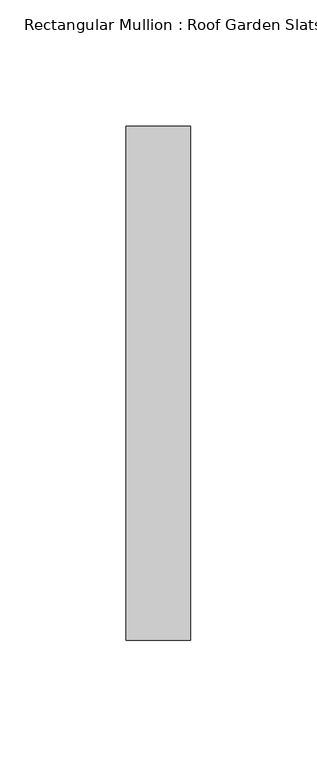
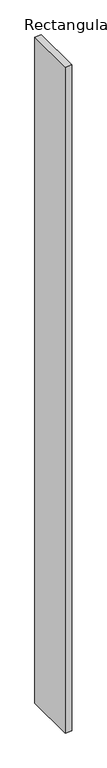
"""IFC4 building model written with IfcOpenShell, lengths in millimetres: member geometry, Rectangular Mullion : Roof Garden Slats."""

from ifc_helpers import new_model, si_unit, frame, origin, place, context, project, spatial, polyline, outline, extrude, source, transform, mapped, element, save


def rectangular_mullion_roof_garden_slats_dad7a06d(model_context):
    return source(origin(), model_context, "Body", "SweptSolid", [
        extrude(outline(polyline([(0.0, 139.7), (0.0, -63.5), (-25.4, -63.5), (-25.4, 139.7), (0.0, 139.7)])), frame((0.0, 0.0, -2729.9929155), z_axis=(0.0, 0.0, 1.0), x_axis=(1.0, 0.0, 0.0)), (0.0, 0.0, 1.0), 2729.9929155),
    ])


if __name__ == "__main__":
    model = new_model("IFC4")
    model_context = context("Model", 3, world=origin())
    ifc_project = project(units=[si_unit("LENGTHUNIT", "METRE", prefix="MILLI")], contexts=[model_context])
    site = spatial("IfcSite", under=ifc_project)
    building = spatial("IfcBuilding", under=site)
    placement = place(None, origin())
    rectangular_mullion_roof_garden_slats_shape = rectangular_mullion_roof_garden_slats_dad7a06d(model_context)
    element("IfcMember", 1, ObjectType="Rectangular Mullion : Roof Garden Slats", at=placement, inside=building, context=model_context, shape_type="MappedRepresentation", body=[
        mapped(rectangular_mullion_roof_garden_slats_shape, transform((0.0, 0.0, 0.0), x_axis=(1.0, 0.0, 0.0), y_axis=(0.0, 1.0, 0.0), z_axis=(0.0, 0.0, 1.0))),
    ])
    save(model, "model.ifc")
